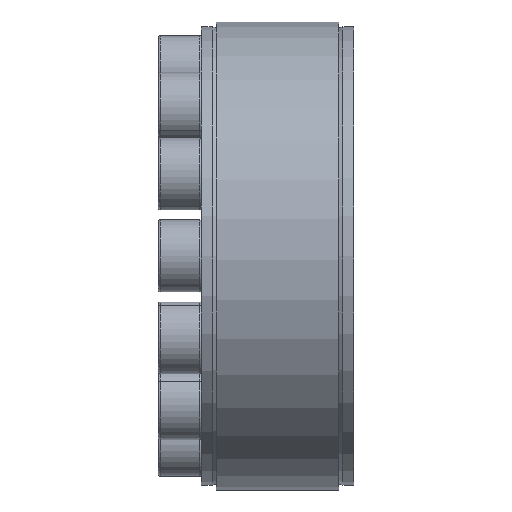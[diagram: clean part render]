
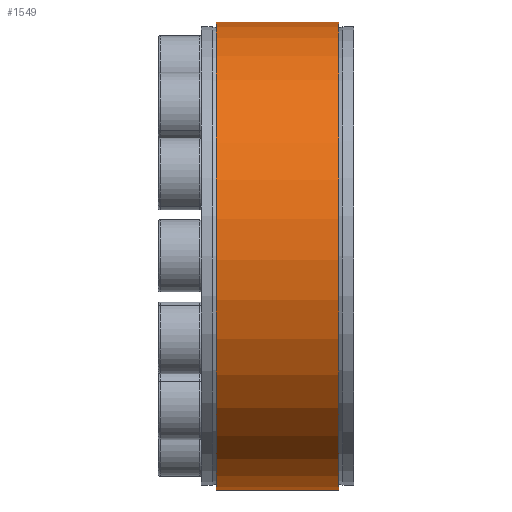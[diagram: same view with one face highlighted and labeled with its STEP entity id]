
A CAD part, front view. The second image highlights one B-rep face of the part: STEP entity #1549.
In plain terms, the highlighted cylindrical face has radius 32.5 mm (diameter 65 mm), a partial arc.
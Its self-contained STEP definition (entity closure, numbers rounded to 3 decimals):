
#5 = EDGE_CURVE ( 'NONE', #7236, #7550, #1313, .T. ) ;
#371 = EDGE_LOOP ( 'NONE', ( #7507, #6534, #6404, #610 ) ) ;
#610 = ORIENTED_EDGE ( 'NONE', *, *, #10198, .F. ) ;
#791 = DIRECTION ( 'NONE',  ( 1., 0., 0. ) ) ;
#925 = CARTESIAN_POINT ( 'NONE',  ( -13.426, -1., 32.485 ) ) ;
#1313 = LINE ( 'NONE', #9186, #10477 ) ;
#1549 = ADVANCED_FACE ( 'NONE', ( #2148 ), #8673, .T. ) ;
#2148 = FACE_OUTER_BOUND ( 'NONE', #371, .T. ) ;
#2217 = DIRECTION ( 'NONE',  ( 0., 0., 1. ) ) ;
#2234 = DIRECTION ( 'NONE',  ( -1., 0., 0. ) ) ;
#2239 = AXIS2_PLACEMENT_3D ( 'NONE', #3108, #6691, #9917 ) ;
#2247 = CARTESIAN_POINT ( 'NONE',  ( 8.5, 0., 0. ) ) ;
#2436 = CIRCLE ( 'NONE', #2239, 32.5 ) ;
#2686 = EDGE_CURVE ( 'NONE', #6976, #5592, #4163, .T. ) ;
#3108 = CARTESIAN_POINT ( 'NONE',  ( -8.5, 0., 0. ) ) ;
#3148 = CARTESIAN_POINT ( 'NONE',  ( -8.5, 1., 32.485 ) ) ;
#3884 = VECTOR ( 'NONE', #791, 1000. ) ;
#4163 = LINE ( 'NONE', #925, #3884 ) ;
#5592 = VERTEX_POINT ( 'NONE', #8031 ) ;
#6404 = ORIENTED_EDGE ( 'NONE', *, *, #2686, .F. ) ;
#6534 = ORIENTED_EDGE ( 'NONE', *, *, #7586, .T. ) ;
#6691 = DIRECTION ( 'NONE',  ( -1., 0., 0. ) ) ;
#6976 = VERTEX_POINT ( 'NONE', #10893 ) ;
#7236 = VERTEX_POINT ( 'NONE', #7456 ) ;
#7456 = CARTESIAN_POINT ( 'NONE',  ( 8.5, 1., 32.485 ) ) ;
#7507 = ORIENTED_EDGE ( 'NONE', *, *, #5, .F. ) ;
#7550 = VERTEX_POINT ( 'NONE', #3148 ) ;
#7586 = EDGE_CURVE ( 'NONE', #7236, #5592, #9237, .T. ) ;
#8031 = CARTESIAN_POINT ( 'NONE',  ( 8.5, -1., 32.485 ) ) ;
#8673 = CYLINDRICAL_SURFACE ( 'NONE', #11024, 32.5 ) ;
#8814 = DIRECTION ( 'NONE',  ( -1., 0., 0. ) ) ;
#9110 = AXIS2_PLACEMENT_3D ( 'NONE', #2247, #2234, #2217 ) ;
#9186 = CARTESIAN_POINT ( 'NONE',  ( -13.426, 1., 32.485 ) ) ;
#9237 = CIRCLE ( 'NONE', #9110, 32.5 ) ;
#9917 = DIRECTION ( 'NONE',  ( 0., 0., 1. ) ) ;
#10198 = EDGE_CURVE ( 'NONE', #7550, #6976, #2436, .T. ) ;
#10372 = CARTESIAN_POINT ( 'NONE',  ( -13.426, 0., 0. ) ) ;
#10386 = DIRECTION ( 'NONE',  ( -1., 0., 0. ) ) ;
#10473 = DIRECTION ( 'NONE',  ( 0., 0., 1. ) ) ;
#10477 = VECTOR ( 'NONE', #8814, 1000. ) ;
#10893 = CARTESIAN_POINT ( 'NONE',  ( -8.5, -1., 32.485 ) ) ;
#11024 = AXIS2_PLACEMENT_3D ( 'NONE', #10372, #10386, #10473 ) ;
